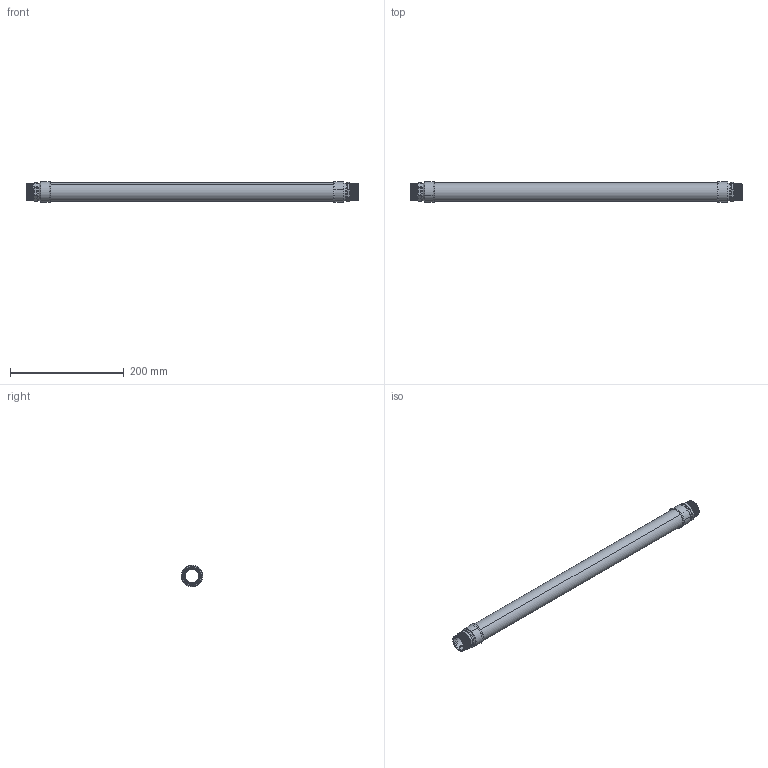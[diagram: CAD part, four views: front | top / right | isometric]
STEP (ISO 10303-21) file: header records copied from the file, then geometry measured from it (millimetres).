
FILE_DESCRIPTION (( 'STEP AP203' ), '1' );
FILE_NAME ('KP_TN25-6S.step', '2011-08-08T11:47:13', ( '' ), ( '' ), 'SwSTEP 2.0', 'SolidWorks 2011', '' );
FILE_SCHEMA (( 'CONFIG_CONTROL_DESIGN' ));
Length unit declared in the file: millimetre
Products named in the file (1): KP_TN25-6S
Bounding box: 584.26 x 37.69 x 37.69 mm (x, y, z)
Volume: 249078.9 mm3; surface area: 115450.1 mm2
Topology: 3 solids, 3 shells, 122 faces, 304 edges, 192 vertices
Faces by surface type: cone 66, plane 28, cylinder 20, bspline 8
Entity records: 17569 total; most frequent: CARTESIAN_POINT 14811, ORIENTED_EDGE 608, DIRECTION 468, EDGE_CURVE 304, VERTEX_POINT 192, AXIS2_PLACEMENT_3D 179, EDGE_LOOP 132, B_SPLINE_CURVE_WITH_KNOTS 130
